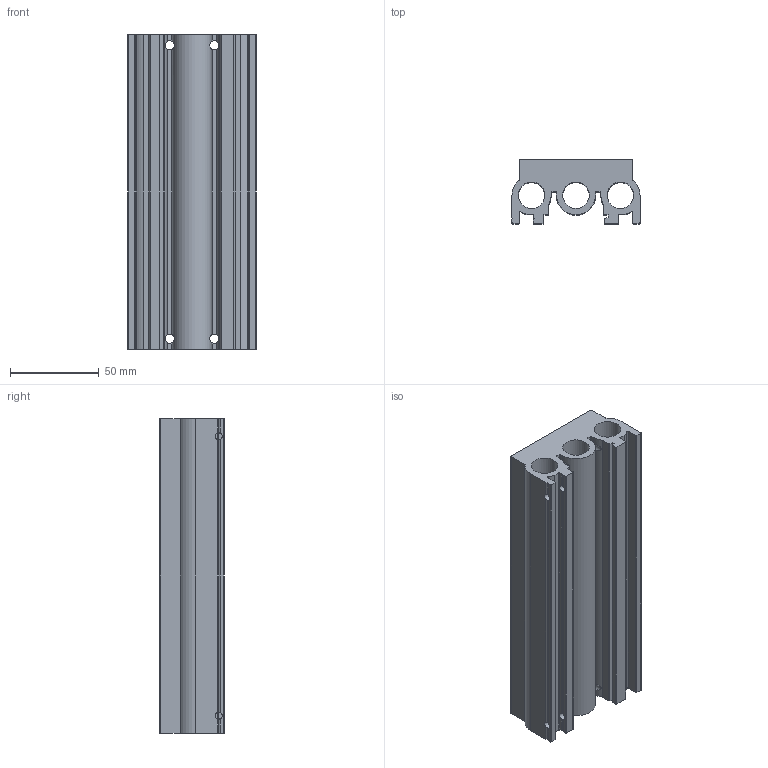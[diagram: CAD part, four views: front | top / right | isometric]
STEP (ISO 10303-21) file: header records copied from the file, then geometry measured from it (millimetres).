
FILE_DESCRIPTION(/* description */ ('COLLETTORE G1/4" 5 POSTI (TECNO-ECO)'),/* implementation_level */ '2;1');
FILE_NAME(/* name */ 'I:\Area Tecnica\Disegni\VARIE-3D\Componenti\T400\T424\T424_##\T424_05.stp',/* time_stamp */ '2015-09-23T13:41:36+02:00',/* author */ ('maniean1'),/* organization */ (''),/* preprocessor_version */ 'ST-DEVELOPER v15.2',/* originating_system */ 'Autodesk Inventor 2014',/* authorisation */ '');
FILE_SCHEMA (('AUTOMOTIVE_DESIGN { 1 0 10303 214 3 1 1 }'));
Length unit declared in the file: millimetre
Products named in the file (1): T424_05
Bounding box: 72 x 36 x 177 mm (x, y, z)
Volume: 252056 mm3; surface area: 85922.7 mm2
Topology: 1 solids, 1 shells, 207 faces, 524 edges, 343 vertices
Faces by surface type: cylinder 99, plane 93, cone 15
Full cylindrical faces by diameter (mm): 4 x19, 5.25 x4, 8 x15, 9 x4, 14.9 x3, 16.8 x15
Entity records: 6738 total; most frequent: CARTESIAN_POINT 1849, DIRECTION 1024, ORIENTED_EDGE 882, EDGE_CURVE 441, AXIS2_PLACEMENT_3D 416, EDGE_LOOP 358, VERTEX_POINT 335, ADVANCED_FACE 207
